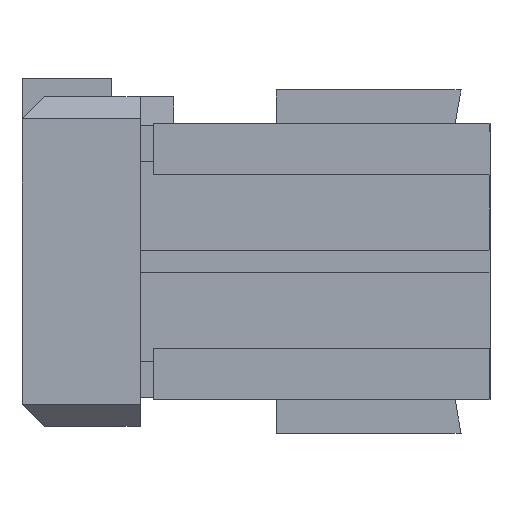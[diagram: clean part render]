
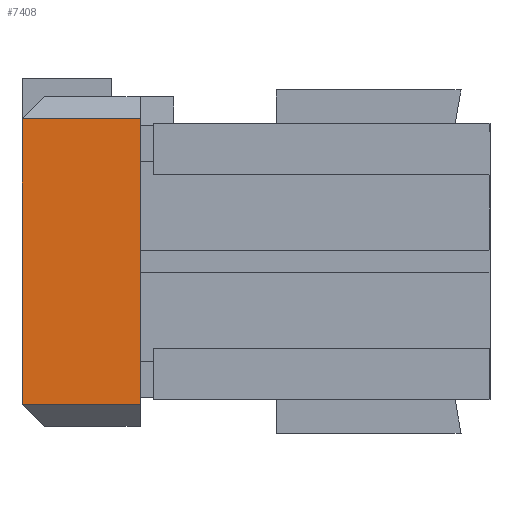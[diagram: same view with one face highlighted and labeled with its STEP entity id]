
A CAD part, front view. The second image highlights one B-rep face of the part: STEP entity #7408.
In plain terms, the highlighted planar face has unit normal (0, -1, 0).
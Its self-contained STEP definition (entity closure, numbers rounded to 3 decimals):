
#5289=CARTESIAN_POINT('Vertex',(-15.7,-24.75,6.4)) ;
#5292=CARTESIAN_POINT('Line Origine',(-15.7,-24.75,0.)) ;
#5296=CARTESIAN_POINT('Vertex',(-15.7,-24.75,-6.4)) ;
#6014=CARTESIAN_POINT('Vertex',(-21.,-24.75,-6.4)) ;
#6019=CARTESIAN_POINT('Line Origine',(-21.,-24.75,0.)) ;
#6023=CARTESIAN_POINT('Vertex',(-21.,-24.75,6.4)) ;
#7380=CARTESIAN_POINT('Line Origine',(-18.35,-24.75,6.4)) ;
#7392=CARTESIAN_POINT('Axis2P3D Location',(-21.,-24.75,7.4)) ;
#7397=CARTESIAN_POINT('Line Origine',(-18.35,-24.75,-6.4)) ;
#5293=DIRECTION('Vector Direction',(0.,0.,1.)) ;
#6020=DIRECTION('Vector Direction',(0.,0.,-1.)) ;
#7381=DIRECTION('Vector Direction',(-1.,0.,0.)) ;
#7393=DIRECTION('Axis2P3D Direction',(0.,-1.,0.)) ;
#7394=DIRECTION('Axis2P3D XDirection',(0.,0.,-1.)) ;
#7398=DIRECTION('Vector Direction',(1.,0.,0.)) ;
#7395=AXIS2_PLACEMENT_3D('Plane Axis2P3D',#7392,#7393,#7394) ;
#7403=ORIENTED_EDGE('',*,*,#5298,.T.) ;
#7404=ORIENTED_EDGE('',*,*,#7384,.T.) ;
#7405=ORIENTED_EDGE('',*,*,#6025,.F.) ;
#7406=ORIENTED_EDGE('',*,*,#7401,.F.) ;
#5294=VECTOR('Line Direction',#5293,1.) ;
#6021=VECTOR('Line Direction',#6020,1.) ;
#7382=VECTOR('Line Direction',#7381,1.) ;
#7399=VECTOR('Line Direction',#7398,1.) ;
#7408=ADVANCED_FACE('BASE BODY',(#7407),#7396,.T.) ;
#5298=EDGE_CURVE('',#5297,#5290,#5295,.T.) ;
#6025=EDGE_CURVE('',#6015,#6024,#6022,.F.) ;
#7384=EDGE_CURVE('',#5290,#6024,#7383,.T.) ;
#7401=EDGE_CURVE('',#5297,#6015,#7400,.F.) ;
#7402=EDGE_LOOP('',(#7403,#7404,#7405,#7406)) ;
#7407=FACE_OUTER_BOUND('',#7402,.T.) ;
#5295=LINE('Line',#5292,#5294) ;
#6022=LINE('Line',#6019,#6021) ;
#7383=LINE('Line',#7380,#7382) ;
#7400=LINE('Line',#7397,#7399) ;
#7396=PLANE('',#7395) ;
#5290=VERTEX_POINT('',#5289) ;
#5297=VERTEX_POINT('',#5296) ;
#6015=VERTEX_POINT('',#6014) ;
#6024=VERTEX_POINT('',#6023) ;
